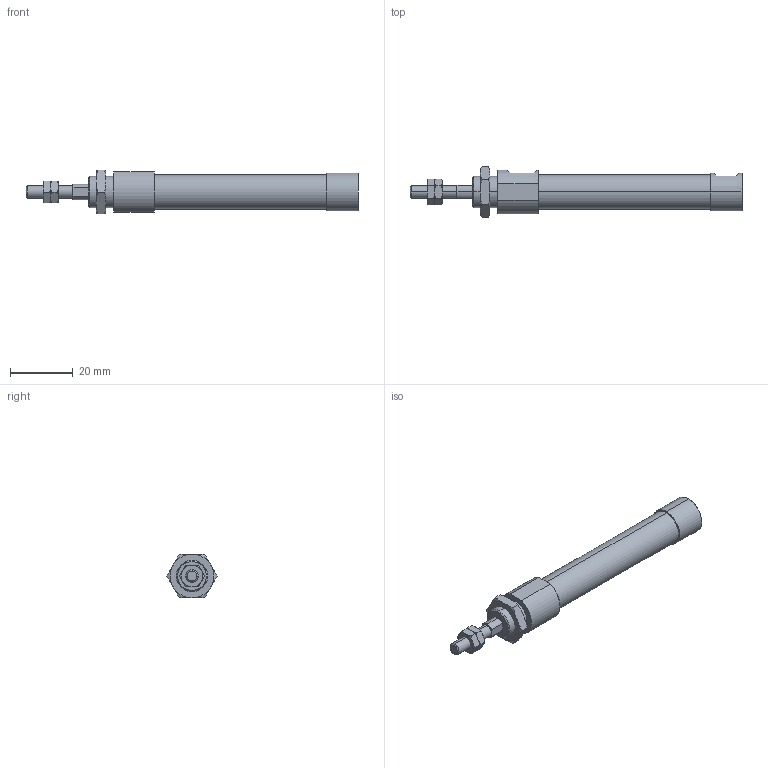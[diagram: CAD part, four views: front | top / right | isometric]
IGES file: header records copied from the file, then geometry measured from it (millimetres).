
Start section: SolidWorks IGES file using analytic representation for surfaces
Global section: file name: C:\Users\Toshiba\Desktop\ZGU2-10-30-N.IGS; native system: SolidWorks 2014; preprocessor: SolidWorks 2014; author: Toshiba; date: 160331.085226; units: millimetre
Bounding box: 106 x 16.17 x 14 mm (x, y, z)
Surface area: 4622.7 mm2 (no closed solid volume)
Topology: 0 solids, 0 shells, 108 faces, 1612 edges, 1608 vertices
Faces by surface type: bspline 77, revolution 31
